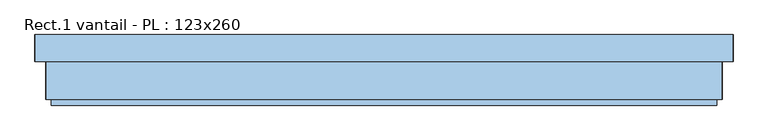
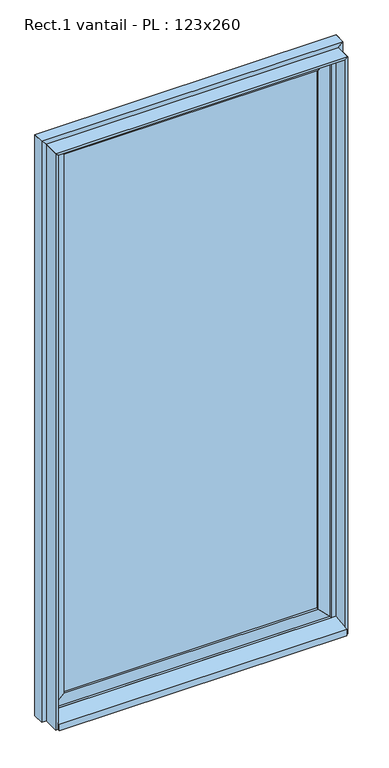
"""IFC4 building model written with IfcOpenShell, lengths in millimetres: window geometry, Rect.1 vantail - PL : 123x260."""

import ifcopenshell
import ifcopenshell.guid

model = None  # the IFC model being written
_history = None  # IfcOwnerHistory: only IFC2X3 demands one
_inside = {}  # id of a spatial element -> (the spatial element, [elements in it])
_under = {}  # id of a project, library or spatial element -> (it, [spatial elements below it])
_declared = {}  # id of a project -> (the project, [libraries it declares])
_typed = {}  # id of a type object -> (the type object, [elements of that type])
_made_of = {}  # id of a material, layer set ... -> (it, [elements and type objects made of it])


def new_model(schema):
    """Start an empty IFC model of exactly this schema.

    Asked for "IFC4X3", IfcOpenShell would pick the latest addendum, in which some entities
    have other attributes; the version numbers below select the first issue.
    IFC2X3 requires an IfcOwnerHistory on every rooted entity: one is made here for all.
    """
    global model, _history
    if schema == "IFC4X3":
        model = ifcopenshell.file(schema_version=(4, 3, 0, 0))
    else:
        model = ifcopenshell.file(schema=schema)
    _inside.clear()
    _under.clear()
    _declared.clear()
    _typed.clear()
    _made_of.clear()
    _history = None
    if model.schema == "IFC2X3":
        org = make("IfcOrganization", Name="unknown")
        user = make(
            "IfcPersonAndOrganization",
            ThePerson=make("IfcPerson", FamilyName="unknown"),
            TheOrganization=org,
        )
        app = make(
            "IfcApplication",
            ApplicationDeveloper=org,
            Version="unknown",
            ApplicationFullName="unknown",
            ApplicationIdentifier="unknown",
        )
        _history = make(
            "IfcOwnerHistory",
            OwningUser=user,
            OwningApplication=app,
            ChangeAction="ADDED",
            CreationDate=0,
        )
    return model


def make(cls, **values):
    """One entity of the class cls with the attributes given. An attribute that is None is left unset."""
    return model.create_entity(
        cls, **{name: value for name, value in values.items() if value is not None}
    )


def rooted(cls, **values):
    """An entity with a GlobalId (a new one), such as an element, a storey or a relation."""
    return make(cls, GlobalId=ifcopenshell.guid.new(), OwnerHistory=_history, **values)


def si_unit(unit_type, name, prefix=None):
    """IfcSIUnit, for example si_unit("LENGTHUNIT", "METRE", prefix="MILLI")."""
    return make("IfcSIUnit", UnitType=unit_type, Prefix=prefix, Name=name)


def assignment(units):
    """IfcUnitAssignment: the units of a project."""
    return None if units is None else make("IfcUnitAssignment", Units=units)


def point(xyz):
    """IfcCartesianPoint."""
    return None if xyz is None else make("IfcCartesianPoint", Coordinates=xyz)


def direction(xyz):
    """IfcDirection."""
    return None if xyz is None else make("IfcDirection", DirectionRatios=xyz)


def frame(location, z_axis=None, x_axis=None):
    """IfcAxis2Placement3D, a coordinate frame: its origin and axes. An axis left out is left unset."""
    return make(
        "IfcAxis2Placement3D",
        Location=point(location),
        Axis=direction(z_axis),
        RefDirection=direction(x_axis),
    )


def origin():
    """The frame at (0, 0, 0) with its axes left unset."""
    return frame((0.0, 0.0, 0.0))


def origin_with_axes():
    """The frame at (0, 0, 0) with the z axis (0, 0, 1) and the x axis (1, 0, 0) written out."""
    return frame((0.0, 0.0, 0.0), z_axis=(0.0, 0.0, 1.0), x_axis=(1.0, 0.0, 0.0))


def place(relative_to, where):
    """IfcLocalPlacement: puts the frame where relative to a parent placement (None: the world)."""
    return make(
        "IfcLocalPlacement", PlacementRelTo=relative_to, RelativePlacement=where
    )


def context(
    kind, dimensions, precision=None, world=None, true_north=None, identifier=None
):
    """IfcGeometricRepresentationContext, for example the 3D "Model" context."""
    return make(
        "IfcGeometricRepresentationContext",
        ContextIdentifier=identifier,
        ContextType=kind,
        CoordinateSpaceDimension=dimensions,
        Precision=precision,
        WorldCoordinateSystem=world,
        TrueNorth=true_north,
    )


def project(units=None, contexts=None):
    """IfcProject with its units and contexts."""
    return rooted(
        "IfcProject",
        Name="project",
        RepresentationContexts=contexts,
        UnitsInContext=assignment(units),
    )


def spatial(cls, under=None, at=None, **own):
    """A site, building, storey or space (cls), placed at a placement, below another one or the project."""
    s = rooted(cls, ObjectPlacement=at, **own)
    if under is not None:
        _under.setdefault(under.id(), (under, []))[1].append(s)
    return s


def polyline(points):
    """IfcPolyline through the points."""
    return make("IfcPolyline", Points=[point(p) for p in points])


def outline(outer, holes=None, kind="AREA"):
    """IfcArbitraryClosedProfileDef: a profile drawn as a closed curve; with holes, ...WithVoids."""
    if holes is None:
        return make("IfcArbitraryClosedProfileDef", ProfileType=kind, OuterCurve=outer)
    return make(
        "IfcArbitraryProfileDefWithVoids",
        ProfileType=kind,
        OuterCurve=outer,
        InnerCurves=holes,
    )


def extrude(swept, where, along, depth):
    """IfcExtrudedAreaSolid: the profile swept, set in the frame where, extruded along a direction by depth."""
    return make(
        "IfcExtrudedAreaSolid",
        SweptArea=swept,
        Position=where,
        ExtrudedDirection=direction(along),
        Depth=depth,
    )


def shape(context_of_items, identifier, shape_type, items):
    """IfcShapeRepresentation: the items that make up one representation, for example the "Body"."""
    return make(
        "IfcShapeRepresentation",
        ContextOfItems=context_of_items,
        RepresentationIdentifier=identifier,
        RepresentationType=shape_type,
        Items=items,
    )


def source(mapping_origin, context_of_items, identifier, shape_type, items):
    """IfcRepresentationMap: a shape defined once, which mapped items show again and again."""
    return make(
        "IfcRepresentationMap",
        MappingOrigin=mapping_origin,
        MappedRepresentation=shape(context_of_items, identifier, shape_type, items),
    )


def transform(
    local_origin,
    x_axis=None,
    y_axis=None,
    z_axis=None,
    scale=None,
    scale2=None,
    scale3=None,
    uniform=True,
):
    """IfcCartesianTransformationOperator3D, or its non-uniform kind. x_axis, y_axis, z_axis: its Axis1, 2, 3."""
    if uniform:
        return make(
            "IfcCartesianTransformationOperator3D",
            Axis1=direction(x_axis),
            Axis2=direction(y_axis),
            LocalOrigin=point(local_origin),
            Scale=scale,
            Axis3=direction(z_axis),
        )
    return make(
        "IfcCartesianTransformationOperator3DnonUniform",
        Axis1=direction(x_axis),
        Axis2=direction(y_axis),
        LocalOrigin=point(local_origin),
        Scale=scale,
        Axis3=direction(z_axis),
        Scale2=scale2,
        Scale3=scale3,
    )


def mapped(mapping_source, mapping_target):
    """IfcMappedItem: shows the shape of a source again, moved by a transform."""
    return make(
        "IfcMappedItem", MappingSource=mapping_source, MappingTarget=mapping_target
    )


def made_of(thing, what):
    """Note that an element or type object is made of a material, layer set ...; save() writes the relation."""
    if what is not None:
        _made_of.setdefault(what.id(), (what, []))[1].append(thing)
    return thing


def element(
    cls,
    number,
    at=None,
    inside=None,
    cuts=None,
    type_object=None,
    material=None,
    context=None,
    identifier="Body",
    shape_type=None,
    held_by="IfcProductDefinitionShape",
    body=None,
    shapes=None,
    **own,
):
    """One element of the class cls, such as IfcWall. Its Tag is "e" and its number.

    at: its placement. inside: the storey or other place that contains it. cuts: it is an
    opening in that element (IfcRelVoidsElement). A single representation is given by context,
    identifier, shape_type and body (its items); several are given by shapes. held_by: the class
    of the entity that holds the representations. save() writes the other relations.
    """
    e = rooted(cls, Tag="e%d" % number, ObjectPlacement=at, **own)
    if body is not None:
        shapes = [shape(context, identifier, shape_type, body)]
    if shapes is not None:
        e.Representation = make(held_by, Representations=shapes)
    if inside is not None:
        _inside.setdefault(inside.id(), (inside, []))[1].append(e)
    if cuts is not None:
        rooted(
            "IfcRelVoidsElement", RelatingBuildingElement=cuts, RelatedOpeningElement=e
        )
    if type_object is not None:
        _typed.setdefault(type_object.id(), (type_object, []))[1].append(e)
    return made_of(e, material)


def aggregate(whole, parts):
    """IfcRelAggregates: a whole, such as a stair, and the parts it consists of."""
    return rooted("IfcRelAggregates", RelatingObject=whole, RelatedObjects=parts)


def save(model, path):
    """Write the relations noted so far, then the file.

    IfcRelAggregates (storeys below a building ...), IfcRelContainedInSpatialStructure (elements
    in a storey), IfcRelDefinesByType, IfcRelAssociatesMaterial and IfcRelDeclares: one each for
    every whole, place, type object, material and project.
    """
    for whole, parts in _under.values():
        aggregate(whole, parts)
    for where, things in _inside.values():
        rooted(
            "IfcRelContainedInSpatialStructure",
            RelatedElements=things,
            RelatingStructure=where,
        )
    for kind, things in _typed.values():
        rooted("IfcRelDefinesByType", RelatedObjects=things, RelatingType=kind)
    for what, things in _made_of.values():
        rooted("IfcRelAssociatesMaterial", RelatedObjects=things, RelatingMaterial=what)
    for by, libraries in _declared.values():
        rooted("IfcRelDeclares", RelatingContext=by, RelatedDefinitions=libraries)
    model.write(path)


def rect_1_vantail_pl_123x260_cbd9efb2(model_context):
    return source(origin(), model_context, "Body", "SweptSolid", [
        extrude(outline(polyline([(545.0, -10.0), (545.0, -30.0), (-545.0, -30.0), (-545.0, -10.0), (545.0, -10.0)])), frame((0.0, 0.0, 90.0), z_axis=(0.0, 0.0, 1.0), x_axis=(1.0, 0.0, 0.0)), (0.0, 0.0, 1.0), 2440.0),
        extrude(outline(polyline([(40.0, -595.0), (90.0, -545.0), (2530.0, -545.0), (2580.0, -595.0), (40.0, -595.0)])), frame((0.0, -40.0, 0.0), z_axis=(0.0, 1.0, 0.0), x_axis=(0.0, 0.0, 1.0)), (0.0, 0.0, 1.0), 40.0),
        extrude(outline(polyline([(90.0, 545.0), (40.0, 595.0), (2580.0, 595.0), (2530.0, 545.0), (90.0, 545.0)])), frame((0.0, -40.0, 0.0), z_axis=(0.0, 1.0, 0.0), x_axis=(0.0, 0.0, 1.0)), (0.0, 0.0, 1.0), 40.0),
        extrude(outline(polyline([(2580.0, 595.0), (2580.0, -595.0), (2530.0, -545.0), (2530.0, 545.0), (2580.0, 595.0)])), frame((0.0, -40.0, 0.0), z_axis=(0.0, 1.0, 0.0), x_axis=(0.0, 0.0, 1.0)), (0.0, 0.0, 1.0), 40.0),
        extrude(outline(polyline([(40.0, 595.0), (90.0, 545.0), (90.0, -545.0), (40.0, -595.0), (40.0, 595.0)])), frame((0.0, -40.0, 0.0), z_axis=(0.0, 1.0, 0.0), x_axis=(0.0, 0.0, 1.0)), (0.0, 0.0, 1.0), 40.0),
        extrude(outline(polyline([(595.0, -50.0), (-595.0, -50.0), (-595.0, 0.0), (595.0, 0.0), (595.0, -50.0)])), origin_with_axes(), (0.0, 0.0, 1.0), 40.0),
        extrude(outline(polyline([(-130.0, 30.0), (-50.0, 40.0), (-50.0, 0.0), (-130.0, 0.0), (-130.0, 30.0)])), frame((-615.0, 0.0, 0.0), z_axis=(1.0, 0.0, 0.0), x_axis=(0.0, 1.0, 0.0)), (0.0, 0.0, 1.0), 1230.0),
        extrude(outline(polyline([(2610.0, 625.0), (2600.0, 615.0), (0.0, 615.0), (0.0, 625.0), (2610.0, 625.0)])), frame((0.0, -120.0, 0.0), z_axis=(0.0, 1.0, 0.0), x_axis=(0.0, 0.0, 1.0)), (0.0, 0.0, 1.0), 70.0),
        extrude(outline(polyline([(2610.0, -625.0), (0.0, -625.0), (0.0, -615.0), (2600.0, -615.0), (2610.0, -625.0)])), frame((0.0, -120.0, 0.0), z_axis=(0.0, 1.0, 0.0), x_axis=(0.0, 0.0, 1.0)), (0.0, 0.0, 1.0), 70.0),
        extrude(outline(polyline([(0.0, -645.0), (0.0, -595.0), (2580.0, -595.0), (2630.0, -645.0), (0.0, -645.0)])), frame((0.0, -50.0, 0.0), z_axis=(0.0, 1.0, 0.0), x_axis=(0.0, 0.0, 1.0)), (0.0, 0.0, 1.0), 50.0),
        extrude(outline(polyline([(0.0, 645.0), (2630.0, 645.0), (2580.0, 595.0), (0.0, 595.0), (0.0, 645.0)])), frame((0.0, -50.0, 0.0), z_axis=(0.0, 1.0, 0.0), x_axis=(0.0, 0.0, 1.0)), (0.0, 0.0, 1.0), 50.0),
        extrude(outline(polyline([(2610.0, -625.0), (2600.0, -615.0), (2600.0, 615.0), (2610.0, 625.0), (2610.0, -625.0)])), frame((0.0, -120.0, 0.0), z_axis=(0.0, 1.0, 0.0), x_axis=(0.0, 0.0, 1.0)), (0.0, 0.0, 1.0), 70.0),
        extrude(outline(polyline([(2630.0, 645.0), (2630.0, -645.0), (2580.0, -595.0), (2580.0, 595.0), (2630.0, 645.0)])), frame((0.0, -50.0, 0.0), z_axis=(0.0, 1.0, 0.0), x_axis=(0.0, 0.0, 1.0)), (0.0, 0.0, 1.0), 50.0),
    ])


if __name__ == "__main__":
    model = new_model("IFC4")
    model_context = context("Model", 3, world=origin())
    ifc_project = project(units=[si_unit("LENGTHUNIT", "METRE", prefix="MILLI")], contexts=[model_context])
    site = spatial("IfcSite", under=ifc_project)
    building = spatial("IfcBuilding", under=site)
    placement = place(None, origin())
    rect_1_vantail_pl_123x260_shape = rect_1_vantail_pl_123x260_cbd9efb2(model_context)
    element("IfcWindow", 1, ObjectType="Rect.1 vantail - PL : 123x260", at=placement, inside=building, context=model_context, shape_type="MappedRepresentation", body=[
        mapped(rect_1_vantail_pl_123x260_shape, transform((0.0, 0.0, 0.0), x_axis=(1.0, 0.0, 0.0), y_axis=(0.0, 1.0, 0.0), z_axis=(0.0, 0.0, 1.0))),
    ])
    save(model, "model.ifc")
